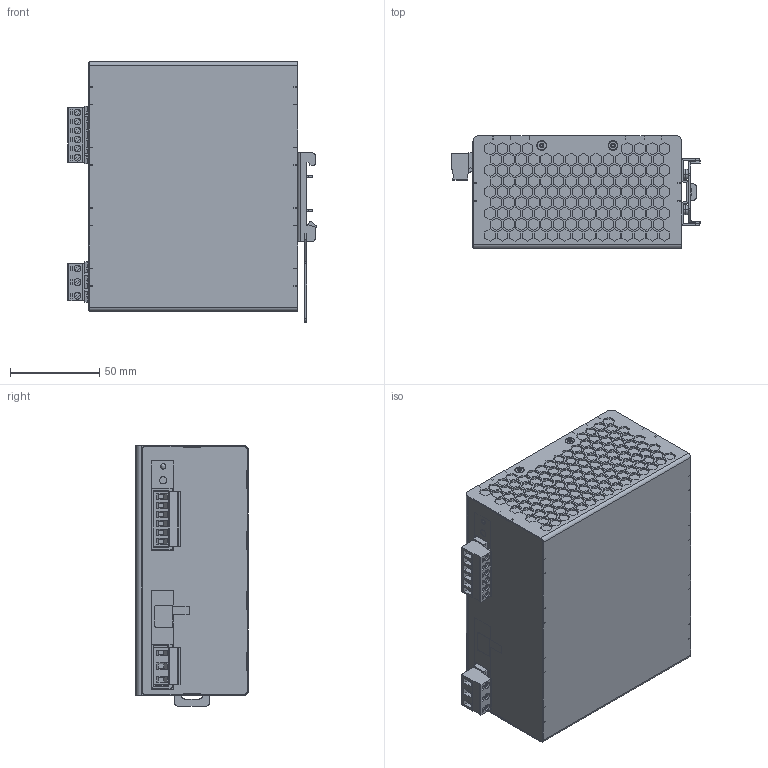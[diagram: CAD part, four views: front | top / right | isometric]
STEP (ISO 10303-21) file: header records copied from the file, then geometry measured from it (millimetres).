
FILE_DESCRIPTION (( 'STEP AP214' ), '1' );
FILE_NAME ('NPSM240_3D_light.STEP', '2016-04-27T10:47:06', ( 'miky' ), ( 'Microsoft' ), 'SwSTEP 2.0', 'SolidWorks 2014', '' );
FILE_SCHEMA (( 'AUTOMOTIVE_DESIGN' ));
Length unit declared in the file: millimetre
Products named in the file (1): NPSM240_3D_light
Bounding box: 139.52 x 63 x 146.2 mm (x, y, z)
Volume: 1035783.7 mm3; surface area: 84813.7 mm2
Topology: 1 solids, 10 shells, 3193 faces, 8545 edges, 5627 vertices
Faces by surface type: plane 2640, cylinder 455, cone 89, bspline 5, torus 4
Entity records: 132349 total; most frequent: CARTESIAN_POINT 18488, ORIENTED_EDGE 17090, DIRECTION 15974, EDGE_CURVE 8545, VECTOR 7180, LINE 7180, VERTEX_POINT 5627, AXIS2_PLACEMENT_3D 4397
